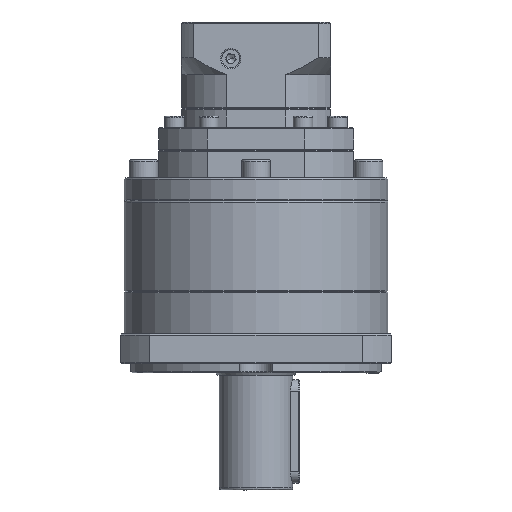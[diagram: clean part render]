
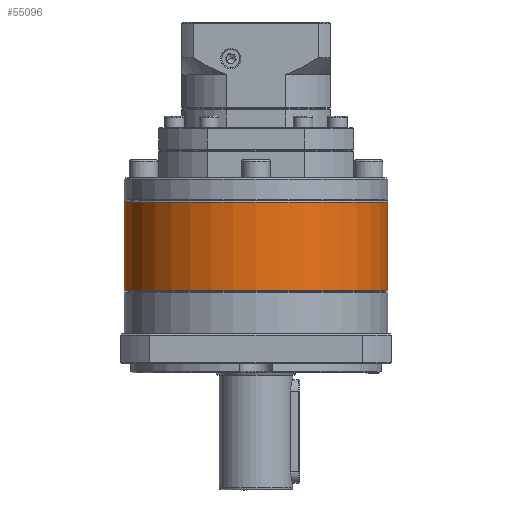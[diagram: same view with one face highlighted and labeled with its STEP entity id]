
A CAD part, front view. The second image highlights one B-rep face of the part: STEP entity #55096.
In plain terms, the highlighted cylindrical face has radius 57.5 mm (diameter 115 mm), a partial arc.
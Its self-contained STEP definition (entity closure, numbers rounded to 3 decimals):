
#5633 = CARTESIAN_POINT ( 'NONE',  ( 118.82, 70.858, -113.423 ) ) ;
#6127 = CARTESIAN_POINT ( 'NONE',  ( 61.32, 70.858, -112.923 ) ) ;
#13641 = CIRCLE ( 'NONE', #130492, 57.5 ) ;
#19619 = CARTESIAN_POINT ( 'NONE',  ( 118.82, 70.858, -112.923 ) ) ;
#20698 = AXIS2_PLACEMENT_3D ( 'NONE', #133001, #30110, #102260 ) ;
#21031 = LINE ( 'NONE', #101685, #64508 ) ;
#28185 = FACE_OUTER_BOUND ( 'NONE', #29398, .T. ) ;
#29398 = EDGE_LOOP ( 'NONE', ( #58821, #121641, #102698, #64979 ) ) ;
#30110 = DIRECTION ( 'NONE',  ( 0., 0., 1. ) ) ;
#36061 = VERTEX_POINT ( 'NONE', #5633 ) ;
#43672 = VERTEX_POINT ( 'NONE', #93391 ) ;
#45450 = CIRCLE ( 'NONE', #20698, 57.5 ) ;
#48906 = DIRECTION ( 'NONE',  ( 0., 0., -1. ) ) ;
#51724 = VECTOR ( 'NONE', #48906, 1000. ) ;
#54929 = AXIS2_PLACEMENT_3D ( 'NONE', #6127, #88275, #87844 ) ;
#55096 = ADVANCED_FACE ( 'NONE', ( #28185 ), #65142, .T. ) ;
#58821 = ORIENTED_EDGE ( 'NONE', *, *, #71811, .F. ) ;
#59353 = DIRECTION ( 'NONE',  ( -1., 0., 0. ) ) ;
#63342 = CARTESIAN_POINT ( 'NONE',  ( 3.82, 70.858, -113.423 ) ) ;
#64508 = VECTOR ( 'NONE', #101236, 1000. ) ;
#64979 = ORIENTED_EDGE ( 'NONE', *, *, #106106, .T. ) ;
#65142 = CYLINDRICAL_SURFACE ( 'NONE', #54929, 57.5 ) ;
#66322 = CARTESIAN_POINT ( 'NONE',  ( 118.82, 70.858, -152.134 ) ) ;
#71811 = EDGE_CURVE ( 'NONE', #36061, #100448, #90351, .T. ) ;
#80543 = DIRECTION ( 'NONE',  ( 0., 0., -1. ) ) ;
#87844 = DIRECTION ( 'NONE',  ( -1., 0., 0. ) ) ;
#88275 = DIRECTION ( 'NONE',  ( 0., 0., -1. ) ) ;
#90351 = LINE ( 'NONE', #19619, #51724 ) ;
#90981 = CARTESIAN_POINT ( 'NONE',  ( 61.32, 70.858, -113.423 ) ) ;
#93391 = CARTESIAN_POINT ( 'NONE',  ( 3.82, 70.858, -152.134 ) ) ;
#100448 = VERTEX_POINT ( 'NONE', #66322 ) ;
#101067 = EDGE_CURVE ( 'NONE', #36061, #127153, #13641, .T. ) ;
#101236 = DIRECTION ( 'NONE',  ( 0., 0., -1. ) ) ;
#101685 = CARTESIAN_POINT ( 'NONE',  ( 3.82, 70.858, -112.923 ) ) ;
#102260 = DIRECTION ( 'NONE',  ( -1., 0., 0. ) ) ;
#102698 = ORIENTED_EDGE ( 'NONE', *, *, #121384, .T. ) ;
#106106 = EDGE_CURVE ( 'NONE', #43672, #100448, #45450, .T. ) ;
#121384 = EDGE_CURVE ( 'NONE', #127153, #43672, #21031, .T. ) ;
#121641 = ORIENTED_EDGE ( 'NONE', *, *, #101067, .T. ) ;
#127153 = VERTEX_POINT ( 'NONE', #63342 ) ;
#130492 = AXIS2_PLACEMENT_3D ( 'NONE', #90981, #80543, #59353 ) ;
#133001 = CARTESIAN_POINT ( 'NONE',  ( 61.32, 70.858, -152.134 ) ) ;
